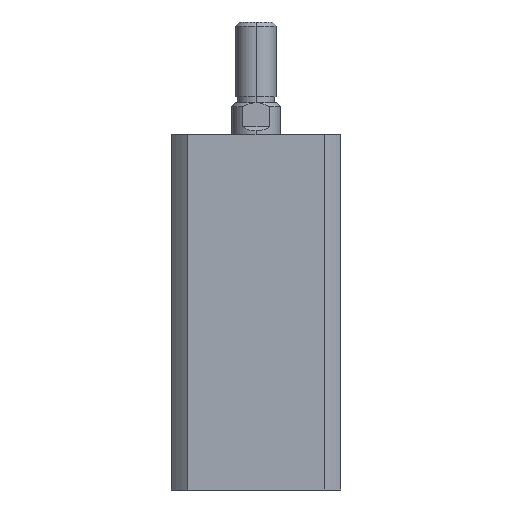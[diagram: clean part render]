
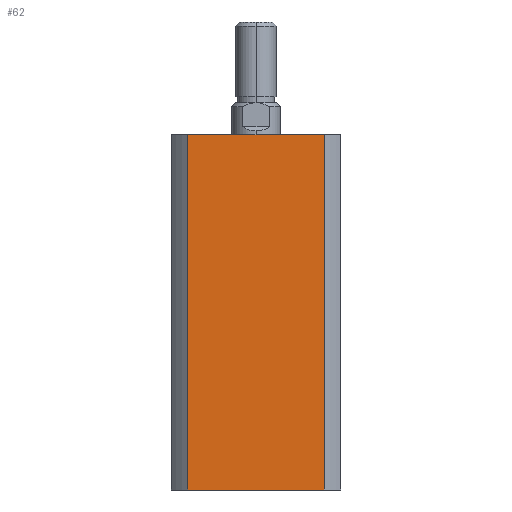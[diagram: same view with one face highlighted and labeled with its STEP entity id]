
A CAD part, left-side view. The second image highlights one B-rep face of the part: STEP entity #62.
In plain terms, the highlighted planar face has unit normal (-1, 0, 0).
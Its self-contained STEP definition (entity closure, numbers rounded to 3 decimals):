
#62 = ADVANCED_FACE ( 'NONE', ( #5106 ), #213, .F. ) ;
#209 = DIRECTION ( 'NONE',  ( 0., 1., 0. ) ) ;
#210 = DIRECTION ( 'NONE',  ( 1., 0., 0. ) ) ;
#213 = PLANE ( 'NONE',  #4032 ) ;
#218 = CARTESIAN_POINT ( 'NONE',  ( -21., 21., 88. ) ) ;
#754 = DIRECTION ( 'NONE',  ( 0., 0., 1. ) ) ;
#755 = CARTESIAN_POINT ( 'NONE',  ( -21., 16.971, 88. ) ) ;
#757 = DIRECTION ( 'NONE',  ( 0., 0., -1. ) ) ;
#758 = CARTESIAN_POINT ( 'NONE',  ( -21., -16.971, 88. ) ) ;
#996 = CARTESIAN_POINT ( 'NONE',  ( -21., 21., 88. ) ) ;
#1008 = DIRECTION ( 'NONE',  ( 0., -1., 0. ) ) ;
#1029 = CARTESIAN_POINT ( 'NONE',  ( -21., 16.971, 0. ) ) ;
#1033 = CARTESIAN_POINT ( 'NONE',  ( -21., 16.971, 88. ) ) ;
#1574 = EDGE_LOOP ( 'NONE', ( #2623, #4905, #5072, #5086 ) ) ;
#1686 = VERTEX_POINT ( 'NONE', #4475 ) ;
#1711 = VERTEX_POINT ( 'NONE', #4447 ) ;
#1754 = VERTEX_POINT ( 'NONE', #1033 ) ;
#1756 = VERTEX_POINT ( 'NONE', #1029 ) ;
#2623 = ORIENTED_EDGE ( 'NONE', *, *, #4123, .F. ) ;
#3081 = VECTOR ( 'NONE', #3423, 1000. ) ;
#3084 = LINE ( 'NONE', #3426, #3081 ) ;
#3423 = DIRECTION ( 'NONE',  ( 0., -1., 0. ) ) ;
#3426 = CARTESIAN_POINT ( 'NONE',  ( -21., 21., 0. ) ) ;
#3572 = VECTOR ( 'NONE', #754, 1000. ) ;
#3592 = LINE ( 'NONE', #758, #3698 ) ;
#3684 = LINE ( 'NONE', #755, #3572 ) ;
#3698 = VECTOR ( 'NONE', #757, 1000. ) ;
#3781 = VECTOR ( 'NONE', #1008, 1000. ) ;
#3784 = LINE ( 'NONE', #996, #3781 ) ;
#4032 = AXIS2_PLACEMENT_3D ( 'NONE', #218, #210, #209 ) ;
#4080 = EDGE_CURVE ( 'NONE', #1754, #1686, #3784, .T. ) ;
#4123 = EDGE_CURVE ( 'NONE', #1686, #1711, #3592, .T. ) ;
#4124 = EDGE_CURVE ( 'NONE', #1756, #1754, #3684, .T. ) ;
#4255 = EDGE_CURVE ( 'NONE', #1756, #1711, #3084, .T. ) ;
#4447 = CARTESIAN_POINT ( 'NONE',  ( -21., -16.971, 0. ) ) ;
#4475 = CARTESIAN_POINT ( 'NONE',  ( -21., -16.971, 88. ) ) ;
#4905 = ORIENTED_EDGE ( 'NONE', *, *, #4080, .F. ) ;
#5072 = ORIENTED_EDGE ( 'NONE', *, *, #4124, .F. ) ;
#5086 = ORIENTED_EDGE ( 'NONE', *, *, #4255, .T. ) ;
#5106 = FACE_OUTER_BOUND ( 'NONE', #1574, .T. ) ;
